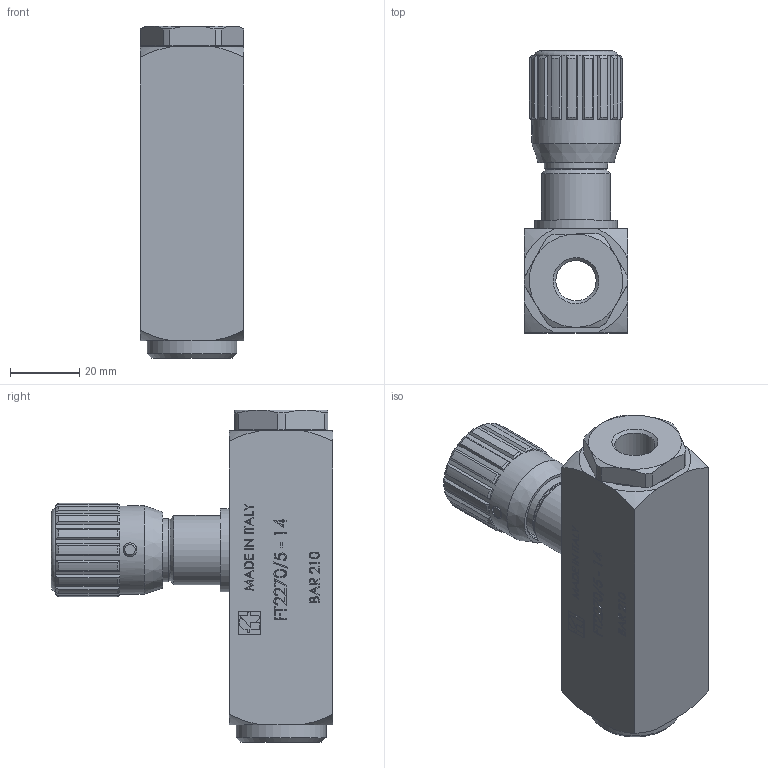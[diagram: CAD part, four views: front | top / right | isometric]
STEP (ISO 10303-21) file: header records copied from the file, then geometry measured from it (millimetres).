
FILE_DESCRIPTION (( 'STEP AP214' ), '1' );
FILE_NAME ('FT2270_5-14.STEP', '2015-03-31T15:12:04', ( 'cperuzzotti' ), ( 'Hewlett-Packard Company' ), 'SwSTEP 2.0', 'SolidWorks 2014', '' );
FILE_SCHEMA (( 'AUTOMOTIVE_DESIGN' ));
Length unit declared in the file: millimetre
Products named in the file (1): FT2270_5-14
Bounding box: 30 x 81.5 x 96 mm (x, y, z)
Surface area: 20335.9 mm2 (no closed solid volume)
Topology: 0 solids, 10 shells, 542 faces, 2014 edges, 1403 vertices
Faces by surface type: plane 368, cylinder 61, bspline 56, cone 48, torus 9
Full cylindrical faces by diameter (mm): 1.411 x1, 4 x1, 11.65 x1, 12.5 x1, 17.8 x1, 18.3 x1, 20 x1, 24 x1, 25 x1, 25.5 x1, 26 x1, 27 x1
Entity records: 31447 total; most frequent: CARTESIAN_POINT 9397, ORIENTED_EDGE 3185, DIRECTION 2927, EDGE_CURVE 1987, VECTOR 1479, LINE 1479, VERTEX_POINT 1397, AXIS2_PLACEMENT_3D 724
